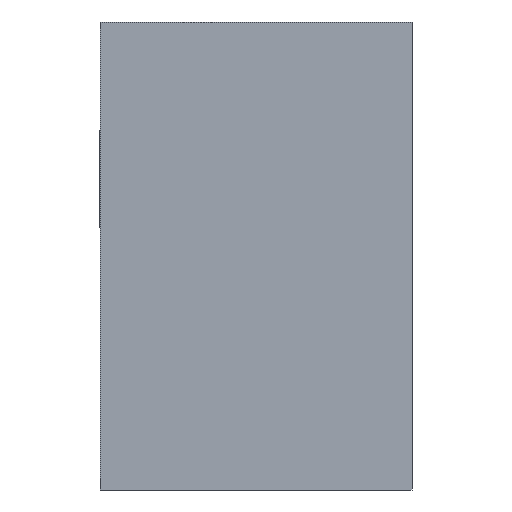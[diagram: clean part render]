
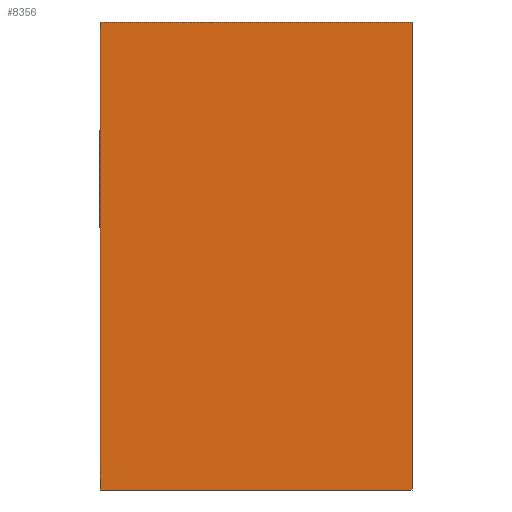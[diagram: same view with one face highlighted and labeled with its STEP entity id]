
A CAD part, left-side view. The second image highlights one B-rep face of the part: STEP entity #8356.
In plain terms, the highlighted planar face has unit normal (-1, 0, 0).
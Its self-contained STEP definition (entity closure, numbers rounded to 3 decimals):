
#194 = EDGE_LOOP ( 'NONE', ( #5354, #5287, #4896, #5043 ) ) ;
#474 = LINE ( 'NONE', #687, #6066 ) ;
#649 = EDGE_CURVE ( 'NONE', #5032, #9440, #7822, .T. ) ;
#687 = CARTESIAN_POINT ( 'NONE',  ( 0., -20.707, 30. ) ) ;
#700 = EDGE_CURVE ( 'NONE', #759, #6620, #5106, .T. ) ;
#723 = DIRECTION ( 'NONE',  ( 0., 1., 0. ) ) ;
#732 = EDGE_CURVE ( 'NONE', #5032, #759, #4102, .T. ) ;
#759 = VERTEX_POINT ( 'NONE', #2995 ) ;
#1189 = DIRECTION ( 'NONE',  ( 0., 0., 1. ) ) ;
#1454 = VECTOR ( 'NONE', #2198, 1000. ) ;
#1527 = CARTESIAN_POINT ( 'NONE',  ( 0., -20., -29.5 ) ) ;
#1785 = CARTESIAN_POINT ( 'NONE',  ( 0., 20., 30. ) ) ;
#2075 = CARTESIAN_POINT ( 'NONE',  ( 0., 20., -29.5 ) ) ;
#2198 = DIRECTION ( 'NONE',  ( 0., 0., 1. ) ) ;
#2445 = CARTESIAN_POINT ( 'NONE',  ( 0., -20.707, -30. ) ) ;
#2995 = CARTESIAN_POINT ( 'NONE',  ( 0., 20., -30. ) ) ;
#3744 = DIRECTION ( 'NONE',  ( -1., 0., 0. ) ) ;
#3769 = DIRECTION ( 'NONE',  ( 0., 0., 1. ) ) ;
#3781 = CARTESIAN_POINT ( 'NONE',  ( 0., 20., -30. ) ) ;
#3963 = PLANE ( 'NONE',  #5471 ) ;
#4102 = LINE ( 'NONE', #2445, #4110 ) ;
#4110 = VECTOR ( 'NONE', #6299, 1000. ) ;
#4896 = ORIENTED_EDGE ( 'NONE', *, *, #700, .F. ) ;
#5032 = VERTEX_POINT ( 'NONE', #5144 ) ;
#5043 = ORIENTED_EDGE ( 'NONE', *, *, #732, .F. ) ;
#5106 = LINE ( 'NONE', #2075, #1454 ) ;
#5144 = CARTESIAN_POINT ( 'NONE',  ( 0., -20., -30. ) ) ;
#5287 = ORIENTED_EDGE ( 'NONE', *, *, #5563, .T. ) ;
#5354 = ORIENTED_EDGE ( 'NONE', *, *, #649, .T. ) ;
#5471 = AXIS2_PLACEMENT_3D ( 'NONE', #3781, #3744, #3769 ) ;
#5563 = EDGE_CURVE ( 'NONE', #9440, #6620, #474, .T. ) ;
#5918 = FACE_OUTER_BOUND ( 'NONE', #194, .T. ) ;
#6066 = VECTOR ( 'NONE', #723, 1000. ) ;
#6299 = DIRECTION ( 'NONE',  ( 0., 1., 0. ) ) ;
#6620 = VERTEX_POINT ( 'NONE', #1785 ) ;
#7526 = CARTESIAN_POINT ( 'NONE',  ( 0., -20., 30. ) ) ;
#7802 = VECTOR ( 'NONE', #1189, 1000. ) ;
#7822 = LINE ( 'NONE', #1527, #7802 ) ;
#8356 = ADVANCED_FACE ( 'NONE', ( #5918 ), #3963, .T. ) ;
#9440 = VERTEX_POINT ( 'NONE', #7526 ) ;
